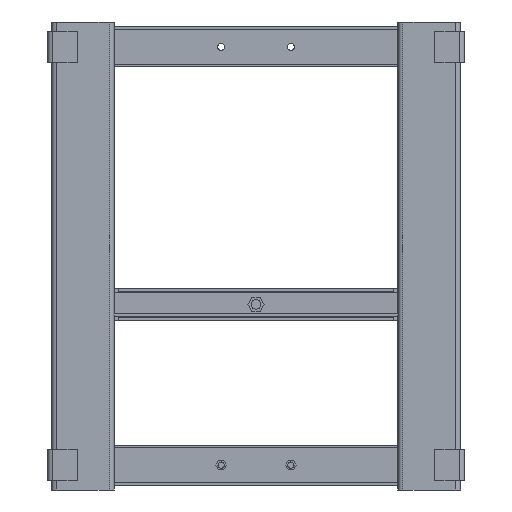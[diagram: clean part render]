
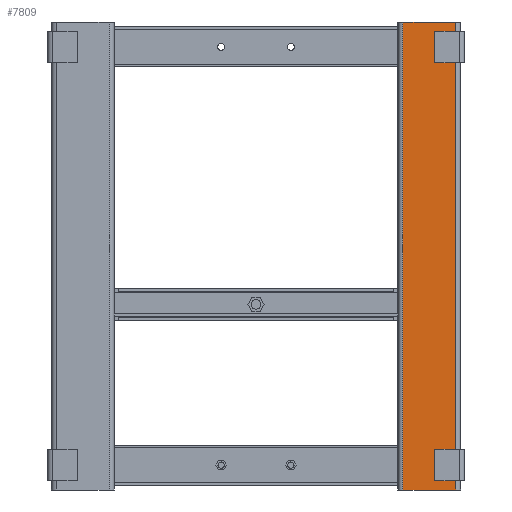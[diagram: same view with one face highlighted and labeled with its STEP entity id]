
A CAD part, front view. The second image highlights one B-rep face of the part: STEP entity #7809.
In plain terms, the highlighted planar face has unit normal (0, -1, 0).
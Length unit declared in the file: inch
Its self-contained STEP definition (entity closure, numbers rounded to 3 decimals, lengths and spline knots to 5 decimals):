
#717=FACE_OUTER_BOUND('',#1163,.T.);
#1163=EDGE_LOOP('',(#6401,#6402,#6403,#6404,#6405,#6406,#6407,#6408,#6409,
#6410,#6411,#6412));
#1909=LINE('',#12211,#2755);
#1915=LINE('',#12226,#2761);
#1924=LINE('',#12245,#2770);
#1945=LINE('',#12295,#2791);
#1950=LINE('',#12309,#2796);
#1960=LINE('',#12329,#2806);
#1964=LINE('',#12338,#2810);
#1965=LINE('',#12340,#2811);
#1966=LINE('',#12342,#2812);
#1967=LINE('',#12344,#2813);
#1968=LINE('',#12345,#2814);
#1969=LINE('',#12346,#2815);
#2755=VECTOR('',#10017,0.3937);
#2761=VECTOR('',#10033,0.3937);
#2770=VECTOR('',#10054,0.3937);
#2791=VECTOR('',#10097,0.3937);
#2796=VECTOR('',#10110,0.3937);
#2806=VECTOR('',#10132,0.3937);
#2810=VECTOR('',#10140,0.3937);
#2811=VECTOR('',#10141,0.3937);
#2812=VECTOR('',#10142,0.3937);
#2813=VECTOR('',#10143,0.3937);
#2814=VECTOR('',#10144,0.3937);
#2815=VECTOR('',#10145,0.3937);
#3484=VERTEX_POINT('',#12208);
#3485=VERTEX_POINT('',#12210);
#3488=VERTEX_POINT('',#12221);
#3489=VERTEX_POINT('',#12225);
#3507=VERTEX_POINT('',#12284);
#3508=VERTEX_POINT('',#12285);
#3511=VERTEX_POINT('',#12294);
#3516=VERTEX_POINT('',#12308);
#3523=VERTEX_POINT('',#12337);
#3524=VERTEX_POINT('',#12339);
#3525=VERTEX_POINT('',#12341);
#3526=VERTEX_POINT('',#12343);
#4455=EDGE_CURVE('',#3485,#3484,#1909,.T.);
#4463=EDGE_CURVE('',#3484,#3489,#1915,.T.);
#4473=EDGE_CURVE('',#3489,#3488,#1924,.T.);
#4498=EDGE_CURVE('',#3511,#3508,#1945,.T.);
#4505=EDGE_CURVE('',#3516,#3511,#1950,.T.);
#4516=EDGE_CURVE('',#3507,#3516,#1960,.T.);
#4520=EDGE_CURVE('',#3488,#3523,#1964,.T.);
#4521=EDGE_CURVE('',#3524,#3523,#1965,.T.);
#4522=EDGE_CURVE('',#3525,#3524,#1966,.T.);
#4523=EDGE_CURVE('',#3525,#3526,#1967,.T.);
#4524=EDGE_CURVE('',#3526,#3507,#1968,.T.);
#4525=EDGE_CURVE('',#3508,#3485,#1969,.T.);
#6401=ORIENTED_EDGE('',*,*,#4473,.T.);
#6402=ORIENTED_EDGE('',*,*,#4520,.T.);
#6403=ORIENTED_EDGE('',*,*,#4521,.F.);
#6404=ORIENTED_EDGE('',*,*,#4522,.F.);
#6405=ORIENTED_EDGE('',*,*,#4523,.T.);
#6406=ORIENTED_EDGE('',*,*,#4524,.T.);
#6407=ORIENTED_EDGE('',*,*,#4516,.T.);
#6408=ORIENTED_EDGE('',*,*,#4505,.T.);
#6409=ORIENTED_EDGE('',*,*,#4498,.T.);
#6410=ORIENTED_EDGE('',*,*,#4525,.T.);
#6411=ORIENTED_EDGE('',*,*,#4455,.T.);
#6412=ORIENTED_EDGE('',*,*,#4463,.T.);
#7094=PLANE('',#8363);
#7809=ADVANCED_FACE('',(#717),#7094,.T.);
#8363=AXIS2_PLACEMENT_3D('',#12336,#10138,#10139);
#10017=DIRECTION('',(-1.,0.,0.));
#10033=DIRECTION('',(0.,0.,1.));
#10054=DIRECTION('',(1.,0.,0.));
#10097=DIRECTION('',(1.,0.,0.));
#10110=DIRECTION('',(0.,0.,1.));
#10132=DIRECTION('',(-1.,0.,0.));
#10138=DIRECTION('center_axis',(0.,-1.,0.));
#10139=DIRECTION('ref_axis',(1.,0.,0.));
#10140=DIRECTION('',(0.,0.,1.));
#10141=DIRECTION('',(1.,0.,0.));
#10142=DIRECTION('',(0.,0.,1.));
#10143=DIRECTION('',(1.,0.,0.));
#10144=DIRECTION('',(0.,0.,1.));
#10145=DIRECTION('',(0.,0.,1.));
#12208=CARTESIAN_POINT('',(17.945,0.,42.935));
#12210=CARTESIAN_POINT('',(20.051,0.,42.935));
#12211=CARTESIAN_POINT('',(17.0975,0.,42.935));
#12221=CARTESIAN_POINT('',(20.051,0.,46.085));
#12225=CARTESIAN_POINT('',(17.945,0.,46.085));
#12226=CARTESIAN_POINT('',(17.945,0.,22.255));
#12245=CARTESIAN_POINT('',(17.0975,0.,46.085));
#12284=CARTESIAN_POINT('',(20.051,0.,0.925));
#12285=CARTESIAN_POINT('',(20.051,0.,4.075));
#12294=CARTESIAN_POINT('',(17.945,0.,4.075));
#12295=CARTESIAN_POINT('',(17.0975,0.,4.075));
#12308=CARTESIAN_POINT('',(17.945,0.,0.925));
#12309=CARTESIAN_POINT('',(17.945,0.,1.25));
#12329=CARTESIAN_POINT('',(17.0975,0.,0.925));
#12336=CARTESIAN_POINT('Origin',(14.75,0.,0.));
#12337=CARTESIAN_POINT('',(20.051,0.,47.01));
#12338=CARTESIAN_POINT('',(20.051,0.,0.));
#12339=CARTESIAN_POINT('',(14.75,0.,47.01));
#12340=CARTESIAN_POINT('',(14.75,0.,47.01));
#12341=CARTESIAN_POINT('',(14.75,0.,0.));
#12342=CARTESIAN_POINT('',(14.75,0.,0.));
#12343=CARTESIAN_POINT('',(20.051,0.,0.));
#12344=CARTESIAN_POINT('',(14.75,0.,0.));
#12345=CARTESIAN_POINT('',(20.051,0.,0.));
#12346=CARTESIAN_POINT('',(20.051,0.,0.));
